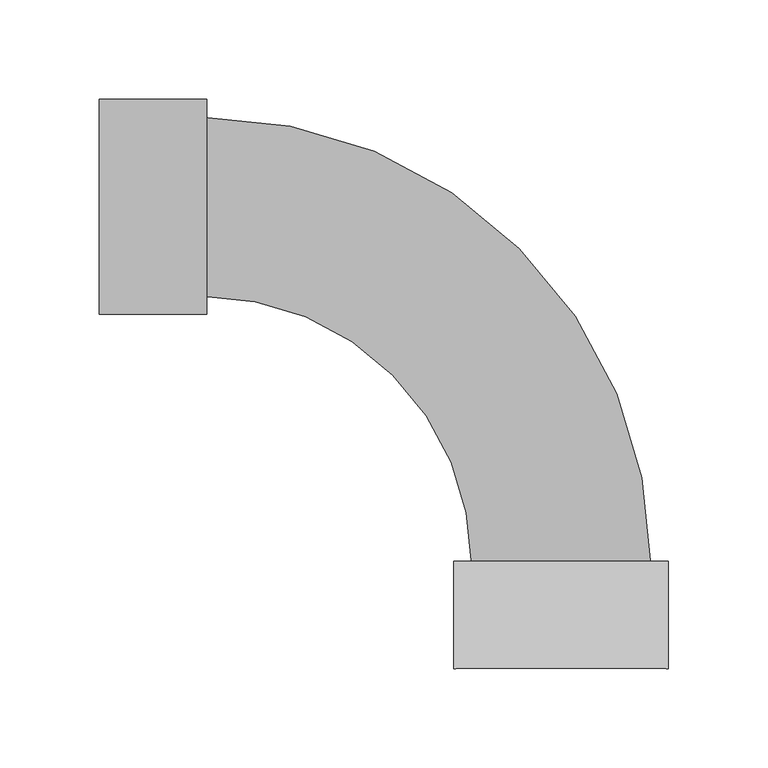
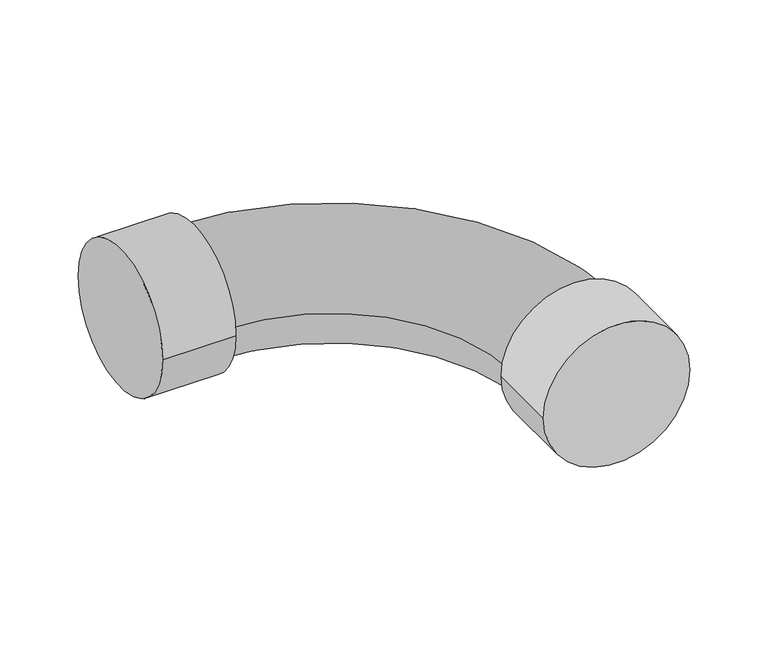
"""IFC4 building model written with IfcOpenShell, lengths in millimetres: pipe fitting geometry, 01051159 : Courbes à 90º  FxF."""

import ifcopenshell
import ifcopenshell.guid

model = None  # the IFC model being written
_history = None  # IfcOwnerHistory: only IFC2X3 demands one
_inside = {}  # id of a spatial element -> (the spatial element, [elements in it])
_under = {}  # id of a project, library or spatial element -> (it, [spatial elements below it])
_declared = {}  # id of a project -> (the project, [libraries it declares])
_typed = {}  # id of a type object -> (the type object, [elements of that type])
_made_of = {}  # id of a material, layer set ... -> (it, [elements and type objects made of it])


def new_model(schema):
    """Start an empty IFC model of exactly this schema.

    Asked for "IFC4X3", IfcOpenShell would pick the latest addendum, in which some entities
    have other attributes; the version numbers below select the first issue.
    IFC2X3 requires an IfcOwnerHistory on every rooted entity: one is made here for all.
    """
    global model, _history
    if schema == "IFC4X3":
        model = ifcopenshell.file(schema_version=(4, 3, 0, 0))
    else:
        model = ifcopenshell.file(schema=schema)
    _inside.clear()
    _under.clear()
    _declared.clear()
    _typed.clear()
    _made_of.clear()
    _history = None
    if model.schema == "IFC2X3":
        org = make("IfcOrganization", Name="unknown")
        user = make(
            "IfcPersonAndOrganization",
            ThePerson=make("IfcPerson", FamilyName="unknown"),
            TheOrganization=org,
        )
        app = make(
            "IfcApplication",
            ApplicationDeveloper=org,
            Version="unknown",
            ApplicationFullName="unknown",
            ApplicationIdentifier="unknown",
        )
        _history = make(
            "IfcOwnerHistory",
            OwningUser=user,
            OwningApplication=app,
            ChangeAction="ADDED",
            CreationDate=0,
        )
    return model


def make(cls, **values):
    """One entity of the class cls with the attributes given. An attribute that is None is left unset."""
    return model.create_entity(
        cls, **{name: value for name, value in values.items() if value is not None}
    )


def rooted(cls, **values):
    """An entity with a GlobalId (a new one), such as an element, a storey or a relation."""
    return make(cls, GlobalId=ifcopenshell.guid.new(), OwnerHistory=_history, **values)


def si_unit(unit_type, name, prefix=None):
    """IfcSIUnit, for example si_unit("LENGTHUNIT", "METRE", prefix="MILLI")."""
    return make("IfcSIUnit", UnitType=unit_type, Prefix=prefix, Name=name)


def assignment(units):
    """IfcUnitAssignment: the units of a project."""
    return None if units is None else make("IfcUnitAssignment", Units=units)


def point(xyz):
    """IfcCartesianPoint."""
    return None if xyz is None else make("IfcCartesianPoint", Coordinates=xyz)


def direction(xyz):
    """IfcDirection."""
    return None if xyz is None else make("IfcDirection", DirectionRatios=xyz)


def frame(location, z_axis=None, x_axis=None):
    """IfcAxis2Placement3D, a coordinate frame: its origin and axes. An axis left out is left unset."""
    return make(
        "IfcAxis2Placement3D",
        Location=point(location),
        Axis=direction(z_axis),
        RefDirection=direction(x_axis),
    )


def frame_2d(location, x_axis=None):
    """IfcAxis2Placement2D, a coordinate frame in the plane: its origin and x axis."""
    return make(
        "IfcAxis2Placement2D", Location=point(location), RefDirection=direction(x_axis)
    )


def origin():
    """The frame at (0, 0, 0) with its axes left unset."""
    return frame((0.0, 0.0, 0.0))


def origin_2d():
    """The frame at (0, 0) in the plane with its x axis left unset."""
    return frame_2d((0.0, 0.0))


def place(relative_to, where):
    """IfcLocalPlacement: puts the frame where relative to a parent placement (None: the world)."""
    return make(
        "IfcLocalPlacement", PlacementRelTo=relative_to, RelativePlacement=where
    )


def context(
    kind, dimensions, precision=None, world=None, true_north=None, identifier=None
):
    """IfcGeometricRepresentationContext, for example the 3D "Model" context."""
    return make(
        "IfcGeometricRepresentationContext",
        ContextIdentifier=identifier,
        ContextType=kind,
        CoordinateSpaceDimension=dimensions,
        Precision=precision,
        WorldCoordinateSystem=world,
        TrueNorth=true_north,
    )


def project(units=None, contexts=None):
    """IfcProject with its units and contexts."""
    return rooted(
        "IfcProject",
        Name="project",
        RepresentationContexts=contexts,
        UnitsInContext=assignment(units),
    )


def spatial(cls, under=None, at=None, **own):
    """A site, building, storey or space (cls), placed at a placement, below another one or the project."""
    s = rooted(cls, ObjectPlacement=at, **own)
    if under is not None:
        _under.setdefault(under.id(), (under, []))[1].append(s)
    return s


def circle_curve(where, radius):
    """IfcCircle in the frame where."""
    return make("IfcCircle", Position=where, Radius=radius)


def ellipse_curve(where, semi_axis1, semi_axis2):
    """IfcEllipse in the frame where."""
    return make(
        "IfcEllipse", Position=where, SemiAxis1=semi_axis1, SemiAxis2=semi_axis2
    )


def trimmed(basis, trim1, trim2, sense, master):
    """IfcTrimmedCurve: the piece of a basis curve between two trims."""
    return make(
        "IfcTrimmedCurve",
        BasisCurve=basis,
        Trim1=trim1,
        Trim2=trim2,
        SenseAgreement=sense,
        MasterRepresentation=master,
    )


def segment(curve, same_sense, transition):
    """IfcCompositeCurveSegment."""
    return make(
        "IfcCompositeCurveSegment",
        Transition=transition,
        SameSense=same_sense,
        ParentCurve=curve,
    )


def composite_curve(segments, self_intersect=None):
    """IfcCompositeCurve: segments joined end to end."""
    return make("IfcCompositeCurve", Segments=segments, SelfIntersect=self_intersect)


def outline(outer, holes=None, kind="AREA"):
    """IfcArbitraryClosedProfileDef: a profile drawn as a closed curve; with holes, ...WithVoids."""
    if holes is None:
        return make("IfcArbitraryClosedProfileDef", ProfileType=kind, OuterCurve=outer)
    return make(
        "IfcArbitraryProfileDefWithVoids",
        ProfileType=kind,
        OuterCurve=outer,
        InnerCurves=holes,
    )


def extrude(swept, where, along, depth):
    """IfcExtrudedAreaSolid: the profile swept, set in the frame where, extruded along a direction by depth."""
    return make(
        "IfcExtrudedAreaSolid",
        SweptArea=swept,
        Position=where,
        ExtrudedDirection=direction(along),
        Depth=depth,
    )


def shape(context_of_items, identifier, shape_type, items):
    """IfcShapeRepresentation: the items that make up one representation, for example the "Body"."""
    return make(
        "IfcShapeRepresentation",
        ContextOfItems=context_of_items,
        RepresentationIdentifier=identifier,
        RepresentationType=shape_type,
        Items=items,
    )


def source(mapping_origin, context_of_items, identifier, shape_type, items):
    """IfcRepresentationMap: a shape defined once, which mapped items show again and again."""
    return make(
        "IfcRepresentationMap",
        MappingOrigin=mapping_origin,
        MappedRepresentation=shape(context_of_items, identifier, shape_type, items),
    )


def transform(
    local_origin,
    x_axis=None,
    y_axis=None,
    z_axis=None,
    scale=None,
    scale2=None,
    scale3=None,
    uniform=True,
):
    """IfcCartesianTransformationOperator3D, or its non-uniform kind. x_axis, y_axis, z_axis: its Axis1, 2, 3."""
    if uniform:
        return make(
            "IfcCartesianTransformationOperator3D",
            Axis1=direction(x_axis),
            Axis2=direction(y_axis),
            LocalOrigin=point(local_origin),
            Scale=scale,
            Axis3=direction(z_axis),
        )
    return make(
        "IfcCartesianTransformationOperator3DnonUniform",
        Axis1=direction(x_axis),
        Axis2=direction(y_axis),
        LocalOrigin=point(local_origin),
        Scale=scale,
        Axis3=direction(z_axis),
        Scale2=scale2,
        Scale3=scale3,
    )


def mapped(mapping_source, mapping_target):
    """IfcMappedItem: shows the shape of a source again, moved by a transform."""
    return make(
        "IfcMappedItem", MappingSource=mapping_source, MappingTarget=mapping_target
    )


def made_of(thing, what):
    """Note that an element or type object is made of a material, layer set ...; save() writes the relation."""
    if what is not None:
        _made_of.setdefault(what.id(), (what, []))[1].append(thing)
    return thing


def element(
    cls,
    number,
    at=None,
    inside=None,
    cuts=None,
    type_object=None,
    material=None,
    context=None,
    identifier="Body",
    shape_type=None,
    held_by="IfcProductDefinitionShape",
    body=None,
    shapes=None,
    **own,
):
    """One element of the class cls, such as IfcWall. Its Tag is "e" and its number.

    at: its placement. inside: the storey or other place that contains it. cuts: it is an
    opening in that element (IfcRelVoidsElement). A single representation is given by context,
    identifier, shape_type and body (its items); several are given by shapes. held_by: the class
    of the entity that holds the representations. save() writes the other relations.
    """
    e = rooted(cls, Tag="e%d" % number, ObjectPlacement=at, **own)
    if body is not None:
        shapes = [shape(context, identifier, shape_type, body)]
    if shapes is not None:
        e.Representation = make(held_by, Representations=shapes)
    if inside is not None:
        _inside.setdefault(inside.id(), (inside, []))[1].append(e)
    if cuts is not None:
        rooted(
            "IfcRelVoidsElement", RelatingBuildingElement=cuts, RelatedOpeningElement=e
        )
    if type_object is not None:
        _typed.setdefault(type_object.id(), (type_object, []))[1].append(e)
    return made_of(e, material)


def aggregate(whole, parts):
    """IfcRelAggregates: a whole, such as a stair, and the parts it consists of."""
    return rooted("IfcRelAggregates", RelatingObject=whole, RelatedObjects=parts)


def save(model, path):
    """Write the relations noted so far, then the file.

    IfcRelAggregates (storeys below a building ...), IfcRelContainedInSpatialStructure (elements
    in a storey), IfcRelDefinesByType, IfcRelAssociatesMaterial and IfcRelDeclares: one each for
    every whole, place, type object, material and project.
    """
    for whole, parts in _under.values():
        aggregate(whole, parts)
    for where, things in _inside.values():
        rooted(
            "IfcRelContainedInSpatialStructure",
            RelatedElements=things,
            RelatingStructure=where,
        )
    for kind, things in _typed.values():
        rooted("IfcRelDefinesByType", RelatedObjects=things, RelatingType=kind)
    for what, things in _made_of.values():
        rooted("IfcRelAssociatesMaterial", RelatedObjects=things, RelatingMaterial=what)
    for by, libraries in _declared.values():
        rooted("IfcRelDeclares", RelatingContext=by, RelatedDefinitions=libraries)
    model.write(path)


def plane_surface(at):
    """IfcPlane: the flat surface through the origin of the frame at, square to its z axis."""
    return make("IfcPlane", Position=at)


def revolved_surface(curve, axis_point, axis_direction):
    """IfcSurfaceOfRevolution: the curve turned about the line through axis_point along axis_direction."""
    return make(
        "IfcSurfaceOfRevolution",
        SweptCurve=make("IfcArbitraryOpenProfileDef", ProfileType="CURVE", Curve=curve),
        AxisPosition=make("IfcAxis1Placement", Location=point(axis_point), Axis=direction(axis_direction)),
    )


def advanced_brep(points, edges, surfaces, faces):
    """IfcAdvancedBrep: a solid bounded by faces that lie on surfaces and meet in shared edges.

    An edge is (start, end): straight between two places in points (the first is 0);
    or (start, end, curve); or (start, end, curve, False) where it runs against its curve.
    A face is (place in surfaces, loops), or (place, loops, False) where it looks against
    its surface's normal. A loop lists edges by number (the first is 1), with a minus sign
    where the edge is run from its end to its start. The first loop is the outer one.
    """
    corners = [point(p) for p in points]
    vertices = [make("IfcVertexPoint", VertexGeometry=c) for c in corners]
    made = []
    for start, end, *more in edges:
        made.append(
            make(
                "IfcEdgeCurve",
                EdgeStart=vertices[start],
                EdgeEnd=vertices[end],
                EdgeGeometry=more[0] if more else make("IfcPolyline", Points=[corners[start], corners[end]]),
                SameSense=more[1] if len(more) > 1 else True,
            )
        )
    hull = []
    for where, loops, *sense in faces:
        bounds = []
        for j, loop in enumerate(loops):
            ring = [make("IfcOrientedEdge", EdgeElement=made[abs(k) - 1], Orientation=k > 0) for k in loop]
            bounds.append(
                make(
                    "IfcFaceOuterBound" if j == 0 else "IfcFaceBound",
                    Bound=make("IfcEdgeLoop", EdgeList=ring),
                    Orientation=True,
                )
            )
        hull.append(make("IfcAdvancedFace", Bounds=bounds, FaceSurface=surfaces[where], SameSense=sense[0] if sense else True))
    return make("IfcAdvancedBrep", Outer=make("IfcClosedShell", CfsFaces=hull))


def pipe_fitting_1f2000db(model_context):
    return source(origin(), model_context, "Body", "SolidModel", [
        extrude(outline(composite_curve([segment(trimmed(circle_curve(origin_2d(), 54.0), [point((54.0, 0.0))], [point((-54.0, 0.0))], False, "CARTESIAN"), True, "CONTINUOUS"), segment(trimmed(circle_curve(origin_2d(), 54.0), [point((-54.0, 0.0))], [point((54.0, 0.0))], False, "CARTESIAN"), True, "CONTINUOUS")], self_intersect=False)), frame((-232.0, 0.0, 0.0), z_axis=(1.0, 0.0, 0.0), x_axis=(0.0, 1.0, 0.0)), (0.0, 0.0, 1.0), 54.0),
        extrude(outline(composite_curve([segment(trimmed(circle_curve(origin_2d(), 54.0), [point((0.0, -54.0))], [point((0.0, 54.0))], False, "CARTESIAN"), True, "CONTINUOUS"), segment(trimmed(circle_curve(origin_2d(), 54.0), [point((0.0, 54.0))], [point((0.0, -54.0))], False, "CARTESIAN"), True, "CONTINUOUS")], self_intersect=False)), frame((0.0, -232.0, 0.0), z_axis=(0.0, 1.0, 0.0), x_axis=(0.0, 0.0, 1.0)), (0.0, 0.0, 1.0), 54.0),
        advanced_brep(
        [(-45.0, -180.0, 0.0), (45.0, -180.0, 0.0), (-180.0, -45.0, 0.0), (-180.0, 45.0, 0.0)],
        [
            (0, 1, circle_curve(frame((0.0, -180.0, 0.0), z_axis=(0.0, -1.0, 0.0), x_axis=(1.0, 0.0, 0.0)), 45.0)),
            (1, 0, circle_curve(frame((0.0, -180.0, 0.0), z_axis=(0.0, -1.0, 0.0), x_axis=(1.0, 0.0, 0.0)), 45.0)),
            (2, 3, circle_curve(frame((-180.0, 0.0, 0.0), z_axis=(-1.0, 0.0, 0.0), x_axis=(0.0, 1.0, 0.0)), 45.0)),
            (3, 2, circle_curve(frame((-180.0, 0.0, 0.0), z_axis=(-1.0, 0.0, 0.0), x_axis=(0.0, 1.0, 0.0)), 45.0)),
            (2, 0, circle_curve(frame((-180.0, -180.0, 0.0), z_axis=(0.0, 0.0, -1.0), x_axis=(1.0, 0.0, 0.0)), 135.0)),
            (1, 3, circle_curve(frame((-180.0, -180.0, 0.0), z_axis=(0.0, 0.0, 1.0), x_axis=(1.0, 0.0, 0.0)), 225.0)),
        ],
        [
            plane_surface(frame((0.0, -180.0, 0.0), z_axis=(0.0, -1.0, 0.0), x_axis=(0.0, 0.0, 1.0))),
            plane_surface(frame((-180.0, 0.0, 0.0), z_axis=(-1.0, 0.0, 0.0), x_axis=(0.0, 0.0, 1.0))),
            revolved_surface(trimmed(ellipse_curve(frame((0.0, -180.0, 0.0), z_axis=(0.0, 1.0, 0.0), x_axis=(1.0, 0.0, 0.0)), 45.0, 45.0), [point((-45.0, -180.0, 0.0))], [point((45.0, -180.0, 0.0))], True, "CARTESIAN"), (-180.0, -180.0, 0.0), (0.0, 0.0, -1.0)),
            revolved_surface(trimmed(ellipse_curve(frame((0.0, -180.0, 0.0), z_axis=(0.0, 1.0, 0.0), x_axis=(1.0, 0.0, 0.0)), 45.0, 45.0), [point((45.0, -180.0, 0.0))], [point((-45.0, -180.0, 0.0))], True, "CARTESIAN"), (-180.0, -180.0, 0.0), (0.0, 0.0, -1.0)),
        ],
        [
            (0, [[1, 2]]),
            (1, [[3, 4]]),
            (2, [[-3, 5, -2, 6]]),
            (3, [[-4, -6, -1, -5]]),
        ],
    ),
    ])


if __name__ == "__main__":
    model = new_model("IFC4")
    model_context = context("Model", 3, world=origin())
    ifc_project = project(units=[si_unit("LENGTHUNIT", "METRE", prefix="MILLI")], contexts=[model_context])
    site = spatial("IfcSite", under=ifc_project)
    building = spatial("IfcBuilding", under=site)
    placement = place(None, origin())
    pipe_fitting_shape = pipe_fitting_1f2000db(model_context)
    element("IfcPipeFitting", 1, ObjectType="01051159 : Courbes à 90º  FxF", at=placement, inside=building, context=model_context, shape_type="MappedRepresentation", body=[
        mapped(pipe_fitting_shape, transform((0.0, 0.0, 0.0), x_axis=(1.0, 0.0, 0.0), y_axis=(0.0, 1.0, 0.0), z_axis=(0.0, 0.0, 1.0))),
    ])
    save(model, "model.ifc")
